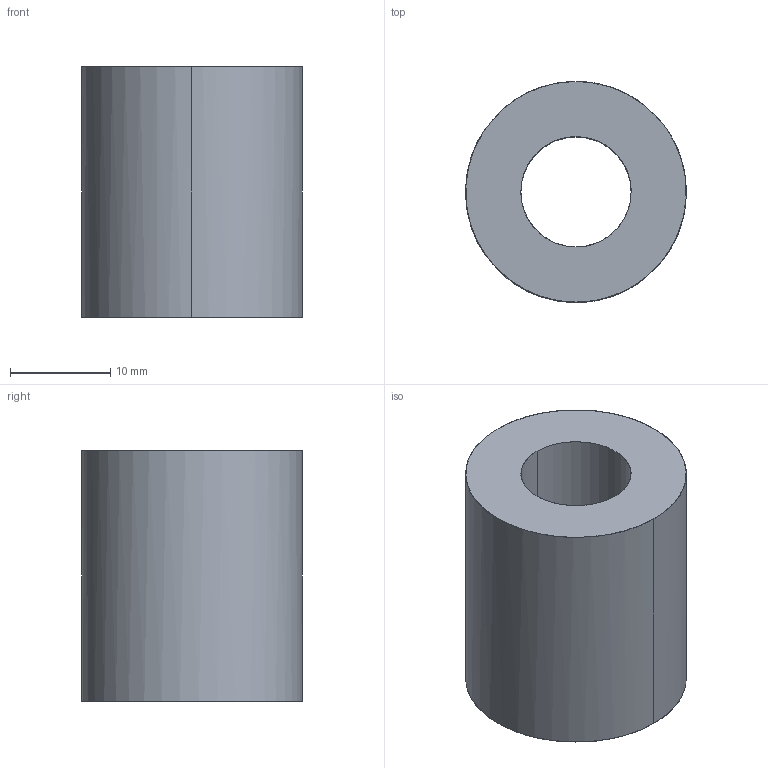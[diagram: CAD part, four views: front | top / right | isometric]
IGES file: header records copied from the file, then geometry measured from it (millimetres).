
Global section: file name: E:\UnigraphicsGraphicData\MISUMI_PRESS-PARTS\IGES\3d_swf22-25_00707_r00.igs; native system: NX V5.0; preprocessor: UGS NX IGES V5.0; author: MISUMI; date: 20110105.163255; units: millimetre
Bounding box: 22 x 22 x 25 mm (x, y, z)
Surface area: 3163.9 mm2 (no closed solid volume)
Topology: 0 solids, 0 shells, 6 faces, 48 edges, 48 vertices
Faces by surface type: bspline 6
